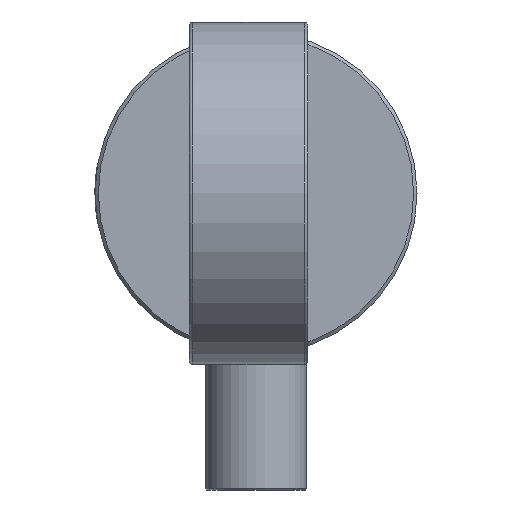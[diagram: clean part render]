
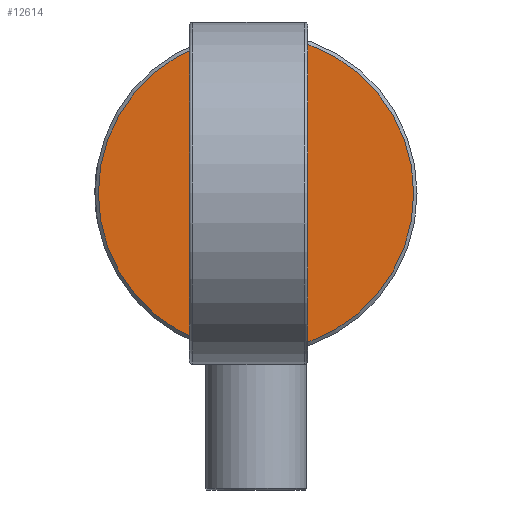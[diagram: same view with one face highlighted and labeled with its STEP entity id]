
A CAD part, front view. The second image highlights one B-rep face of the part: STEP entity #12614.
In plain terms, the highlighted planar face has unit normal (0, -1, 0).
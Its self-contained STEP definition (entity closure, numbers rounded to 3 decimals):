
#1461=PLANE('',#13540);
#1733=FACE_OUTER_BOUND('',#2494,.T.);
#2494=EDGE_LOOP('',(#8732));
#5108=CIRCLE('',#13539,46.5);
#5375=VERTEX_POINT('',#16634);
#6697=EDGE_CURVE('',#5375,#5375,#5108,.T.);
#8732=ORIENTED_EDGE('',*,*,#6697,.F.);
#12614=ADVANCED_FACE('',(#1733),#1461,.T.);
#13539=AXIS2_PLACEMENT_3D('',#16636,#14370,#14371);
#13540=AXIS2_PLACEMENT_3D('',#16637,#14372,#14373);
#14370=DIRECTION('center_axis',(0.,1.,0.));
#14371=DIRECTION('ref_axis',(0.,0.,-1.));
#14372=DIRECTION('center_axis',(0.,-1.,0.));
#14373=DIRECTION('ref_axis',(0.,0.,-1.));
#16634=CARTESIAN_POINT('',(0.,0.,46.5));
#16636=CARTESIAN_POINT('Origin',(0.,0.,0.));
#16637=CARTESIAN_POINT('Origin',(0.,0.,47.5));
